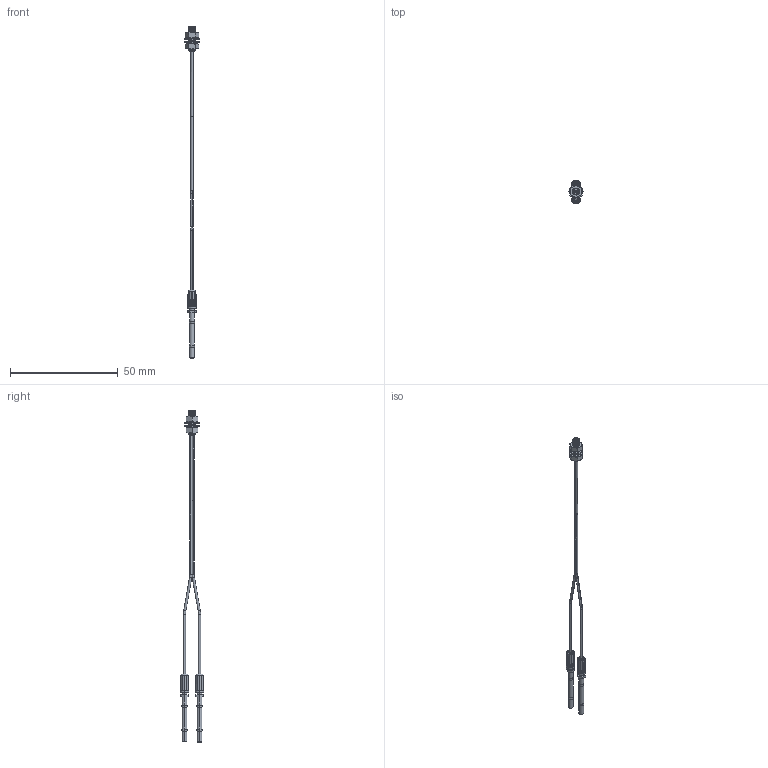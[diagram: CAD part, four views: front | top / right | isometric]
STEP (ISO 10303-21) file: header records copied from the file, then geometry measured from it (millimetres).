
FILE_DESCRIPTION (( 'STEP AP214' ), '1' );
FILE_NAME ('FD-310-05.STEP', '2019-06-18T02:34:56', ( '' ), ( '' ), 'SwSTEP 2.0', 'SolidWorks 2018', '' );
FILE_SCHEMA (( 'AUTOMOTIVE_DESIGN' ));
Length unit declared in the file: millimetre
Products named in the file (1): FD-310-05
Bounding box: 6.5 x 11 x 154.01 mm (x, y, z)
Volume: 715.2 mm3; surface area: 2198.4 mm2
Topology: 7 solids, 7 shells, 397 faces, 998 edges, 629 vertices
Faces by surface type: cylinder 166, plane 159, cone 43, torus 20, bspline 9
Entity records: 18728 total; most frequent: CARTESIAN_POINT 8870, ORIENTED_EDGE 1996, DIRECTION 1810, EDGE_CURVE 998, AXIS2_PLACEMENT_3D 719, VERTEX_POINT 629, EDGE_LOOP 423, ADVANCED_FACE 397
